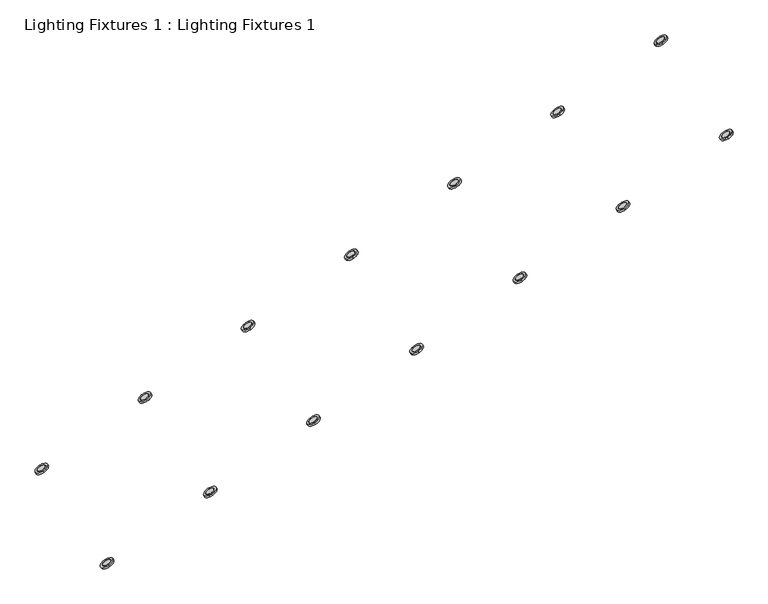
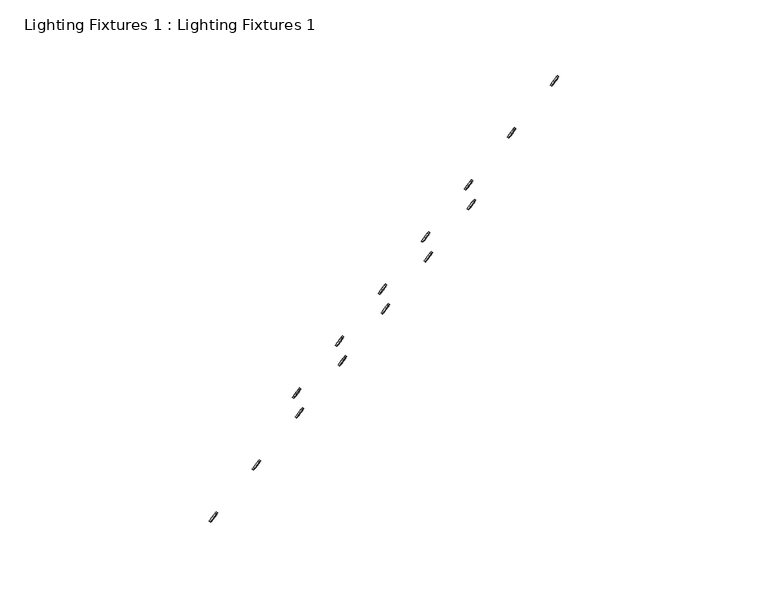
"""IFC4 building model written with IfcOpenShell, lengths in millimetres: light fixture geometry, Lighting Fixtures 1 : Lighting Fixtures 1."""

from ifc_helpers import new_model, si_unit, point, frame, frame_2d, origin, place, context, project, spatial, circle_curve, trimmed, segment, composite_curve, outline, extrude, source, transform, mapped, element, save


def lighting_fixtures_1_lighting_fixtures_1_ac2eb563(model_context):
    return source(origin(), model_context, "Body", "SweptSolid", [
        extrude(outline(composite_curve([segment(trimmed(circle_curve(frame_2d((0.0, -65.0)), 65.0), [point((0.0, -130.0))], [point((0.0, 0.0))], False, "CARTESIAN"), True, "CONTINUOUS"), segment(trimmed(circle_curve(frame_2d((0.0, -65.0)), 65.0), [point((0.0, 0.0))], [point((0.0, -130.0))], False, "CARTESIAN"), True, "CONTINUOUS")], self_intersect=False)), frame((-3287.5954696, 15591.6144499, 5027.0479263), z_axis=(-0.5058151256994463, 0.7311515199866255, 0.4577865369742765), x_axis=(-0.8223851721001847, -0.5689311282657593, 0.0)), (0.0, 0.0, 1.0), 30.0),
        extrude(outline(composite_curve([segment(trimmed(circle_curve(frame_2d((0.0, -100.0)), 100.0), [point((0.0, -200.0))], [point((0.0, 0.0))], False, "CARTESIAN"), True, "CONTINUOUS"), segment(trimmed(circle_curve(frame_2d((0.0, -100.0)), 100.0), [point((0.0, 0.0))], [point((0.0, -200.0))], False, "CARTESIAN"), True, "CONTINUOUS")], self_intersect=False), holes=[composite_curve([segment(trimmed(circle_curve(frame_2d((0.0, -100.0)), 65.0), [point((0.0, -165.0))], [point((0.0, -35.0))], True, "CARTESIAN"), True, "CONTINUOUS"), segment(trimmed(circle_curve(frame_2d((0.0, -100.0)), 65.0), [point((0.0, -35.0))], [point((0.0, -165.0))], True, "CARTESIAN"), True, "CONTINUOUS")], self_intersect=False)]), frame((-3281.0088298, 15582.0935174, 5060.4540338), z_axis=(-0.5058151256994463, 0.7311515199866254, 0.4577865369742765), x_axis=(-0.8223851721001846, -0.5689311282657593, 0.0)), (0.0, 0.0, 1.0), 25.0),
        extrude(outline(composite_curve([segment(trimmed(circle_curve(frame_2d((0.0, -65.0)), 65.0), [point((1e-07, -130.0))], [point((0.0, 0.0))], False, "CARTESIAN"), True, "CONTINUOUS"), segment(trimmed(circle_curve(frame_2d((0.0, -65.0)), 65.0), [point((0.0, 0.0))], [point((1e-07, -130.0))], False, "CARTESIAN"), True, "CONTINUOUS")], self_intersect=False)), frame((-2402.0688322, 14311.5931259, 8049.859198), z_axis=(-0.5058151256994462, 0.7311515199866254, 0.4577865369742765), x_axis=(-0.8223851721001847, -0.5689311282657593, 0.0)), (0.0, 0.0, 1.0), 30.0),
        extrude(outline(composite_curve([segment(trimmed(circle_curve(frame_2d((0.0, -100.0)), 100.0), [point((0.0, -200.0))], [point((0.0, 0.0))], False, "CARTESIAN"), True, "CONTINUOUS"), segment(trimmed(circle_curve(frame_2d((0.0, -100.0)), 100.0), [point((0.0, 0.0))], [point((0.0, -200.0))], False, "CARTESIAN"), True, "CONTINUOUS")], self_intersect=False), holes=[composite_curve([segment(trimmed(circle_curve(frame_2d((0.0, -100.0)), 65.0), [point((0.0, -165.0))], [point((0.0, -35.0))], True, "CARTESIAN"), True, "CONTINUOUS"), segment(trimmed(circle_curve(frame_2d((0.0, -100.0)), 65.0), [point((0.0, -35.0))], [point((0.0, -165.0))], True, "CARTESIAN"), True, "CONTINUOUS")], self_intersect=False)]), frame((-2395.4821925, 14302.0721934, 8083.2653056), z_axis=(-0.5058151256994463, 0.7311515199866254, 0.4577865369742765), x_axis=(-0.8223851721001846, -0.5689311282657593, 0.0)), (0.0, 0.0, 1.0), 25.0),
        extrude(outline(composite_curve([segment(trimmed(circle_curve(frame_2d((1e-07, -65.0)), 65.0), [point((1e-07, -130.0))], [point((0.0, 0.0))], False, "CARTESIAN"), True, "CONTINUOUS"), segment(trimmed(circle_curve(frame_2d((1e-07, -65.0)), 65.0), [point((0.0, 0.0))], [point((1e-07, -130.0))], False, "CARTESIAN"), True, "CONTINUOUS")], self_intersect=False)), frame((-4685.8587003, 14624.7331591, 5026.3358773), z_axis=(-0.5058151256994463, 0.7311515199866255, 0.4577865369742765), x_axis=(-0.8223851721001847, -0.5689311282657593, 0.0)), (0.0, 0.0, 1.0), 30.0),
        extrude(outline(composite_curve([segment(trimmed(circle_curve(frame_2d((0.0, -100.0)), 100.0), [point((0.0, -200.0))], [point((0.0, 0.0))], False, "CARTESIAN"), True, "CONTINUOUS"), segment(trimmed(circle_curve(frame_2d((0.0, -100.0)), 100.0), [point((0.0, 0.0))], [point((0.0, -200.0))], False, "CARTESIAN"), True, "CONTINUOUS")], self_intersect=False), holes=[composite_curve([segment(trimmed(circle_curve(frame_2d((0.0, -100.0)), 65.0), [point((0.0, -165.0))], [point((0.0, -35.0))], True, "CARTESIAN"), True, "CONTINUOUS"), segment(trimmed(circle_curve(frame_2d((0.0, -100.0)), 65.0), [point((0.0, -35.0))], [point((0.0, -165.0))], True, "CARTESIAN"), True, "CONTINUOUS")], self_intersect=False)]), frame((-4679.2720606, 14615.2122266, 5059.7419849), z_axis=(-0.5058151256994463, 0.7311515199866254, 0.4577865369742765), x_axis=(-0.8223851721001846, -0.5689311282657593, 0.0)), (0.0, 0.0, 1.0), 25.0),
        extrude(outline(composite_curve([segment(trimmed(circle_curve(frame_2d((0.0, -65.0)), 65.0), [point((0.0, -130.0))], [point((0.0, 0.0))], False, "CARTESIAN"), True, "CONTINUOUS"), segment(trimmed(circle_curve(frame_2d((0.0, -65.0)), 65.0), [point((0.0, 0.0))], [point((0.0, -130.0))], False, "CARTESIAN"), True, "CONTINUOUS")], self_intersect=False)), frame((-3800.332063, 13344.7118351, 8049.1471491), z_axis=(-0.5058151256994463, 0.7311515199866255, 0.4577865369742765), x_axis=(-0.8223851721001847, -0.5689311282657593, 0.0)), (0.0, 0.0, 1.0), 30.0),
        extrude(outline(composite_curve([segment(trimmed(circle_curve(frame_2d((0.0, -99.9999999)), 100.0), [point((0.0, -200.0))], [point((0.0, 0.0))], False, "CARTESIAN"), True, "CONTINUOUS"), segment(trimmed(circle_curve(frame_2d((0.0, -99.9999999)), 100.0), [point((0.0, 0.0))], [point((0.0, -200.0))], False, "CARTESIAN"), True, "CONTINUOUS")], self_intersect=False), holes=[composite_curve([segment(trimmed(circle_curve(frame_2d((0.0, -99.9999999)), 65.0), [point((1e-07, -165.0))], [point((0.0, -35.0))], True, "CARTESIAN"), True, "CONTINUOUS"), segment(trimmed(circle_curve(frame_2d((0.0, -99.9999999)), 65.0), [point((0.0, -35.0))], [point((1e-07, -165.0))], True, "CARTESIAN"), True, "CONTINUOUS")], self_intersect=False)]), frame((-3793.7454232, 13335.1909026, 8082.5532566), z_axis=(-0.5058151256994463, 0.7311515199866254, 0.4577865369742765), x_axis=(-0.8223851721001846, -0.5689311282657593, 0.0)), (0.0, 0.0, 1.0), 25.0),
        extrude(outline(composite_curve([segment(trimmed(circle_curve(frame_2d((0.0, -65.0)), 65.0), [point((0.0, -130.0))], [point((0.0, 0.0))], False, "CARTESIAN"), True, "CONTINUOUS"), segment(trimmed(circle_curve(frame_2d((0.0, -65.0)), 65.0), [point((0.0, 0.0))], [point((0.0, -130.0))], False, "CARTESIAN"), True, "CONTINUOUS")], self_intersect=False)), frame((-6084.1219311, 13657.8518683, 5025.6238284), z_axis=(-0.5058151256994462, 0.7311515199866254, 0.45778653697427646), x_axis=(-0.8223851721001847, -0.5689311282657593, 0.0)), (0.0, 0.0, 1.0), 30.0),
        extrude(outline(composite_curve([segment(trimmed(circle_curve(frame_2d((0.0, -99.9999999)), 100.0), [point((0.0, -200.0))], [point((0.0, 0.0))], False, "CARTESIAN"), True, "CONTINUOUS"), segment(trimmed(circle_curve(frame_2d((0.0, -99.9999999)), 100.0), [point((0.0, 0.0))], [point((0.0, -200.0))], False, "CARTESIAN"), True, "CONTINUOUS")], self_intersect=False), holes=[composite_curve([segment(trimmed(circle_curve(frame_2d((0.0, -99.9999999)), 65.0), [point((0.0, -165.0))], [point((-1e-07, -34.9999999))], True, "CARTESIAN"), True, "CONTINUOUS"), segment(trimmed(circle_curve(frame_2d((0.0, -99.9999999)), 65.0), [point((-1e-07, -34.9999999))], [point((0.0, -165.0))], True, "CARTESIAN"), True, "CONTINUOUS")], self_intersect=False)]), frame((-6077.5352914, 13648.3309358, 5059.0299359), z_axis=(-0.5058151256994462, 0.7311515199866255, 0.4577865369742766), x_axis=(-0.8223851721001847, -0.5689311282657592, 0.0)), (0.0, 0.0, 1.0), 25.0),
        extrude(outline(composite_curve([segment(trimmed(circle_curve(frame_2d((0.0, -65.0)), 65.0), [point((0.0, -130.0))], [point((0.0, 0.0))], False, "CARTESIAN"), True, "CONTINUOUS"), segment(trimmed(circle_curve(frame_2d((0.0, -65.0)), 65.0), [point((0.0, 0.0))], [point((0.0, -130.0))], False, "CARTESIAN"), True, "CONTINUOUS")], self_intersect=False)), frame((-5198.5952938, 12377.8305444, 8048.4351001), z_axis=(-0.5058151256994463, 0.7311515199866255, 0.4577865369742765), x_axis=(-0.8223851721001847, -0.5689311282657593, 0.0)), (0.0, 0.0, 1.0), 30.0),
        extrude(outline(composite_curve([segment(trimmed(circle_curve(frame_2d((0.0, -100.0)), 100.0), [point((0.0, -200.0))], [point((0.0, 0.0))], False, "CARTESIAN"), True, "CONTINUOUS"), segment(trimmed(circle_curve(frame_2d((0.0, -100.0)), 100.0), [point((0.0, 0.0))], [point((0.0, -200.0))], False, "CARTESIAN"), True, "CONTINUOUS")], self_intersect=False), holes=[composite_curve([segment(trimmed(circle_curve(frame_2d((0.0, -100.0)), 65.0), [point((0.0, -165.0))], [point((0.0, -35.0))], True, "CARTESIAN"), True, "CONTINUOUS"), segment(trimmed(circle_curve(frame_2d((0.0, -100.0)), 65.0), [point((0.0, -35.0))], [point((0.0, -165.0))], True, "CARTESIAN"), True, "CONTINUOUS")], self_intersect=False)]), frame((-5192.008654, 12368.3096119, 8081.8412077), z_axis=(-0.5058151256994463, 0.7311515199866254, 0.4577865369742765), x_axis=(-0.8223851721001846, -0.5689311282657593, 0.0)), (0.0, 0.0, 1.0), 25.0),
        extrude(outline(composite_curve([segment(trimmed(circle_curve(frame_2d((0.0, -65.0)), 65.0), [point((0.0, -130.0))], [point((0.0, 0.0))], False, "CARTESIAN"), True, "CONTINUOUS"), segment(trimmed(circle_curve(frame_2d((0.0, -65.0)), 65.0), [point((0.0, 0.0))], [point((0.0, -130.0))], False, "CARTESIAN"), True, "CONTINUOUS")], self_intersect=False)), frame((-7482.1767237, 12690.6689503, 5025.6238284), z_axis=(-0.5058151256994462, 0.7311515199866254, 0.45778653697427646), x_axis=(-0.8223851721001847, -0.5689311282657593, 0.0)), (0.0, 0.0, 1.0), 30.0),
        extrude(outline(composite_curve([segment(trimmed(circle_curve(frame_2d((0.0, -99.9999999)), 100.0), [point((0.0, -200.0))], [point((0.0, 0.0))], False, "CARTESIAN"), True, "CONTINUOUS"), segment(trimmed(circle_curve(frame_2d((0.0, -99.9999999)), 100.0), [point((0.0, 0.0))], [point((0.0, -200.0))], False, "CARTESIAN"), True, "CONTINUOUS")], self_intersect=False), holes=[composite_curve([segment(trimmed(circle_curve(frame_2d((0.0, -99.9999999)), 65.0), [point((0.0, -165.0))], [point((0.0, -35.0))], True, "CARTESIAN"), True, "CONTINUOUS"), segment(trimmed(circle_curve(frame_2d((0.0, -99.9999999)), 65.0), [point((0.0, -35.0))], [point((0.0, -165.0))], True, "CARTESIAN"), True, "CONTINUOUS")], self_intersect=False)]), frame((-7475.5900839, 12681.1480178, 5059.0299359), z_axis=(-0.5058151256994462, 0.7311515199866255, 0.4577865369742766), x_axis=(-0.8223851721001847, -0.5689311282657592, 0.0)), (0.0, 0.0, 1.0), 25.0),
        extrude(outline(composite_curve([segment(trimmed(circle_curve(frame_2d((0.0, -65.0)), 65.0), [point((1e-07, -130.0))], [point((0.0, 0.0))], False, "CARTESIAN"), True, "CONTINUOUS"), segment(trimmed(circle_curve(frame_2d((0.0, -65.0)), 65.0), [point((0.0, 0.0))], [point((1e-07, -130.0))], False, "CARTESIAN"), True, "CONTINUOUS")], self_intersect=False)), frame((-6596.6500863, 11410.6476263, 8048.4351001), z_axis=(-0.5058151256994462, 0.7311515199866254, 0.45778653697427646), x_axis=(-0.8223851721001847, -0.5689311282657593, 0.0)), (0.0, 0.0, 1.0), 30.0),
        extrude(outline(composite_curve([segment(trimmed(circle_curve(frame_2d((0.0, -100.0)), 100.0), [point((0.0, -200.0))], [point((0.0, 0.0))], False, "CARTESIAN"), True, "CONTINUOUS"), segment(trimmed(circle_curve(frame_2d((0.0, -100.0)), 100.0), [point((0.0, 0.0))], [point((0.0, -200.0))], False, "CARTESIAN"), True, "CONTINUOUS")], self_intersect=False), holes=[composite_curve([segment(trimmed(circle_curve(frame_2d((0.0, -100.0)), 65.0), [point((0.0, -165.0))], [point((0.0, -35.0))], True, "CARTESIAN"), True, "CONTINUOUS"), segment(trimmed(circle_curve(frame_2d((0.0, -100.0)), 65.0), [point((0.0, -35.0))], [point((0.0, -165.0))], True, "CARTESIAN"), True, "CONTINUOUS")], self_intersect=False)]), frame((-6590.0634466, 11401.1266938, 8081.8412077), z_axis=(-0.5058151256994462, 0.7311515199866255, 0.4577865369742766), x_axis=(-0.8223851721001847, -0.5689311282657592, 0.0)), (0.0, 0.0, 1.0), 25.0),
        extrude(outline(composite_curve([segment(trimmed(circle_curve(frame_2d((1e-07, -65.0)), 65.0), [point((1e-07, -130.0))], [point((0.0, 0.0))], False, "CARTESIAN"), True, "CONTINUOUS"), segment(trimmed(circle_curve(frame_2d((1e-07, -65.0)), 65.0), [point((0.0, 0.0))], [point((1e-07, -130.0))], False, "CARTESIAN"), True, "CONTINUOUS")], self_intersect=False)), frame((-8880.4399544, 11723.7876595, 5024.9117794), z_axis=(-0.5058151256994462, 0.7311515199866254, 0.45778653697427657), x_axis=(-0.8223851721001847, -0.5689311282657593, 0.0)), (0.0, 0.0, 1.0), 30.0),
        extrude(outline(composite_curve([segment(trimmed(circle_curve(frame_2d((0.0, -100.0)), 100.0), [point((0.0, -200.0))], [point((0.0, 0.0))], False, "CARTESIAN"), True, "CONTINUOUS"), segment(trimmed(circle_curve(frame_2d((0.0, -100.0)), 100.0), [point((0.0, 0.0))], [point((0.0, -200.0))], False, "CARTESIAN"), True, "CONTINUOUS")], self_intersect=False), holes=[composite_curve([segment(trimmed(circle_curve(frame_2d((0.0, -100.0)), 65.0), [point((0.0, -165.0))], [point((0.0, -35.0))], True, "CARTESIAN"), True, "CONTINUOUS"), segment(trimmed(circle_curve(frame_2d((0.0, -100.0)), 65.0), [point((0.0, -35.0))], [point((0.0, -165.0))], True, "CARTESIAN"), True, "CONTINUOUS")], self_intersect=False)]), frame((-8873.8533147, 11714.266727, 5058.317887), z_axis=(-0.5058151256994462, 0.7311515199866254, 0.4577865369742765), x_axis=(-0.8223851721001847, -0.5689311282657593, 0.0)), (0.0, 0.0, 1.0), 25.0),
        extrude(outline(composite_curve([segment(trimmed(circle_curve(frame_2d((0.0, -65.0)), 65.0), [point((0.0, -130.0))], [point((0.0, 0.0))], False, "CARTESIAN"), True, "CONTINUOUS"), segment(trimmed(circle_curve(frame_2d((0.0, -65.0)), 65.0), [point((0.0, 0.0))], [point((0.0, -130.0))], False, "CARTESIAN"), True, "CONTINUOUS")], self_intersect=False)), frame((-7994.9133171, 10443.7663355, 8047.7230512), z_axis=(-0.5058151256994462, 0.7311515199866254, 0.45778653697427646), x_axis=(-0.8223851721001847, -0.5689311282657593, 0.0)), (0.0, 0.0, 1.0), 30.0),
        extrude(outline(composite_curve([segment(trimmed(circle_curve(frame_2d((0.0, -99.9999999)), 100.0), [point((0.0, -200.0))], [point((0.0, 0.0))], False, "CARTESIAN"), True, "CONTINUOUS"), segment(trimmed(circle_curve(frame_2d((0.0, -99.9999999)), 100.0), [point((0.0, 0.0))], [point((0.0, -200.0))], False, "CARTESIAN"), True, "CONTINUOUS")], self_intersect=False), holes=[composite_curve([segment(trimmed(circle_curve(frame_2d((0.0, -99.9999999)), 65.0), [point((1e-07, -165.0))], [point((0.0, -35.0))], True, "CARTESIAN"), True, "CONTINUOUS"), segment(trimmed(circle_curve(frame_2d((0.0, -99.9999999)), 65.0), [point((0.0, -35.0))], [point((1e-07, -165.0))], True, "CARTESIAN"), True, "CONTINUOUS")], self_intersect=False)]), frame((-7988.3266773, 10434.245403, 8081.1291587), z_axis=(-0.5058151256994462, 0.7311515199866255, 0.4577865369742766), x_axis=(-0.8223851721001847, -0.5689311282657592, 0.0)), (0.0, 0.0, 1.0), 25.0),
        extrude(outline(composite_curve([segment(trimmed(circle_curve(frame_2d((0.0, -65.0)), 65.0), [point((0.0, -130.0))], [point((0.0, 0.0))], False, "CARTESIAN"), True, "CONTINUOUS"), segment(trimmed(circle_curve(frame_2d((0.0, -65.0)), 65.0), [point((0.0, 0.0))], [point((0.0, -130.0))], False, "CARTESIAN"), True, "CONTINUOUS")], self_intersect=False)), frame((-10278.494747, 10756.6047414, 5024.9117794), z_axis=(-0.5058151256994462, 0.7311515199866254, 0.45778653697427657), x_axis=(-0.8223851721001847, -0.5689311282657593, 0.0)), (0.0, 0.0, 1.0), 30.0),
        extrude(outline(composite_curve([segment(trimmed(circle_curve(frame_2d((0.0, -100.0)), 100.0), [point((0.0, -200.0))], [point((0.0, 0.0))], False, "CARTESIAN"), True, "CONTINUOUS"), segment(trimmed(circle_curve(frame_2d((0.0, -100.0)), 100.0), [point((0.0, 0.0))], [point((0.0, -200.0))], False, "CARTESIAN"), True, "CONTINUOUS")], self_intersect=False), holes=[composite_curve([segment(trimmed(circle_curve(frame_2d((0.0, -100.0)), 65.0), [point((0.0, -165.0))], [point((-1e-07, -35.0))], True, "CARTESIAN"), True, "CONTINUOUS"), segment(trimmed(circle_curve(frame_2d((0.0, -100.0)), 65.0), [point((-1e-07, -35.0))], [point((0.0, -165.0))], True, "CARTESIAN"), True, "CONTINUOUS")], self_intersect=False)]), frame((-10271.9081073, 10747.0838089, 5058.317887), z_axis=(-0.5058151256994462, 0.7311515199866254, 0.4577865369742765), x_axis=(-0.8223851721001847, -0.5689311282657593, 0.0)), (0.0, 0.0, 1.0), 25.0),
        extrude(outline(composite_curve([segment(trimmed(circle_curve(frame_2d((0.0, -65.0)), 65.0), [point((0.0, -130.0))], [point((0.0, 0.0))], False, "CARTESIAN"), True, "CONTINUOUS"), segment(trimmed(circle_curve(frame_2d((0.0, -65.0)), 65.0), [point((0.0, 0.0))], [point((0.0, -130.0))], False, "CARTESIAN"), True, "CONTINUOUS")], self_intersect=False)), frame((-9392.9681097, 9476.5834175, 8047.7230512), z_axis=(-0.5058151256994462, 0.7311515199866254, 0.45778653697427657), x_axis=(-0.8223851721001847, -0.5689311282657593, 0.0)), (0.0, 0.0, 1.0), 30.0),
        extrude(outline(composite_curve([segment(trimmed(circle_curve(frame_2d((0.0, -99.9999999)), 100.0), [point((0.0, -200.0))], [point((0.0, 0.0))], False, "CARTESIAN"), True, "CONTINUOUS"), segment(trimmed(circle_curve(frame_2d((0.0, -99.9999999)), 100.0), [point((0.0, 0.0))], [point((0.0, -200.0))], False, "CARTESIAN"), True, "CONTINUOUS")], self_intersect=False), holes=[composite_curve([segment(trimmed(circle_curve(frame_2d((0.0, -99.9999999)), 65.0), [point((0.0, -165.0))], [point((0.0, -35.0))], True, "CARTESIAN"), True, "CONTINUOUS"), segment(trimmed(circle_curve(frame_2d((0.0, -99.9999999)), 65.0), [point((0.0, -35.0))], [point((0.0, -165.0))], True, "CARTESIAN"), True, "CONTINUOUS")], self_intersect=False)]), frame((-9386.3814699, 9467.062485, 8081.1291587), z_axis=(-0.5058151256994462, 0.7311515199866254, 0.4577865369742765), x_axis=(-0.8223851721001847, -0.5689311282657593, 0.0)), (0.0, 0.0, 1.0), 25.0),
        extrude(outline(composite_curve([segment(trimmed(circle_curve(frame_2d((1e-07, -65.0)), 65.0), [point((1e-07, -130.0))], [point((0.0, 0.0))], False, "CARTESIAN"), True, "CONTINUOUS"), segment(trimmed(circle_curve(frame_2d((1e-07, -65.0)), 65.0), [point((0.0, 0.0))], [point((1e-07, -130.0))], False, "CARTESIAN"), True, "CONTINUOUS")], self_intersect=False)), frame((-10791.0229022, 8509.4004994, 8047.7230512), z_axis=(-0.5058151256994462, 0.7311515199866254, 0.45778653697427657), x_axis=(-0.8223851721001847, -0.5689311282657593, 0.0)), (0.0, 0.0, 1.0), 30.0),
        extrude(outline(composite_curve([segment(trimmed(circle_curve(frame_2d((0.0, -99.9999999)), 100.0), [point((0.0, -200.0))], [point((0.0, 0.0))], False, "CARTESIAN"), True, "CONTINUOUS"), segment(trimmed(circle_curve(frame_2d((0.0, -99.9999999)), 100.0), [point((0.0, 0.0))], [point((0.0, -200.0))], False, "CARTESIAN"), True, "CONTINUOUS")], self_intersect=False), holes=[composite_curve([segment(trimmed(circle_curve(frame_2d((0.0, -99.9999999)), 65.0), [point((0.0, -165.0))], [point((0.0, -35.0))], True, "CARTESIAN"), True, "CONTINUOUS"), segment(trimmed(circle_curve(frame_2d((0.0, -99.9999999)), 65.0), [point((0.0, -35.0))], [point((0.0, -165.0))], True, "CARTESIAN"), True, "CONTINUOUS")], self_intersect=False)]), frame((-10784.4362625, 8499.8795669, 8081.1291587), z_axis=(-0.5058151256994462, 0.7311515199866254, 0.4577865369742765), x_axis=(-0.8223851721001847, -0.5689311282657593, 0.0)), (0.0, 0.0, 1.0), 25.0),
        extrude(outline(composite_curve([segment(trimmed(circle_curve(frame_2d((0.0, -65.0)), 65.0), [point((0.0, -130.0))], [point((0.0, 0.0))], False, "CARTESIAN"), True, "CONTINUOUS"), segment(trimmed(circle_curve(frame_2d((0.0, -65.0)), 65.0), [point((0.0, 0.0))], [point((0.0, -130.0))], False, "CARTESIAN"), True, "CONTINUOUS")], self_intersect=False)), frame((-11676.5495396, 9789.4218234, 5024.9117794), z_axis=(-0.5058151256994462, 0.7311515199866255, 0.4577865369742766), x_axis=(-0.8223851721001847, -0.5689311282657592, 0.0)), (0.0, 0.0, 1.0), 30.0),
        extrude(outline(composite_curve([segment(trimmed(circle_curve(frame_2d((0.0, -100.0)), 100.0), [point((0.0, -200.0))], [point((0.0, 0.0))], False, "CARTESIAN"), True, "CONTINUOUS"), segment(trimmed(circle_curve(frame_2d((0.0, -100.0)), 100.0), [point((0.0, 0.0))], [point((0.0, -200.0))], False, "CARTESIAN"), True, "CONTINUOUS")], self_intersect=False), holes=[composite_curve([segment(trimmed(circle_curve(frame_2d((0.0, -100.0)), 65.0), [point((0.0, -165.0))], [point((0.0, -35.0))], True, "CARTESIAN"), True, "CONTINUOUS"), segment(trimmed(circle_curve(frame_2d((0.0, -100.0)), 65.0), [point((0.0, -35.0))], [point((0.0, -165.0))], True, "CARTESIAN"), True, "CONTINUOUS")], self_intersect=False)]), frame((-11669.9628998, 9779.9008909, 5058.317887), z_axis=(-0.5058151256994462, 0.7311515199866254, 0.45778653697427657), x_axis=(-0.8223851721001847, -0.5689311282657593, 0.0)), (0.0, 0.0, 1.0), 25.0),
    ])


if __name__ == "__main__":
    model = new_model("IFC4")
    model_context = context("Model", 3, world=origin())
    ifc_project = project(units=[si_unit("LENGTHUNIT", "METRE", prefix="MILLI")], contexts=[model_context])
    site = spatial("IfcSite", under=ifc_project)
    building = spatial("IfcBuilding", under=site)
    placement = place(None, origin())
    lighting_fixtures_1_lighting_fixtures_1_shape = lighting_fixtures_1_lighting_fixtures_1_ac2eb563(model_context)
    element("IfcLightFixture", 1, ObjectType="Lighting Fixtures 1 : Lighting Fixtures 1", at=placement, inside=building, context=model_context, shape_type="MappedRepresentation", body=[
        mapped(lighting_fixtures_1_lighting_fixtures_1_shape, transform((0.0, 0.0, 0.0), x_axis=(1.0, 0.0, 0.0), y_axis=(0.0, 1.0, 0.0), z_axis=(0.0, 0.0, 1.0))),
    ])
    save(model, "model.ifc")
